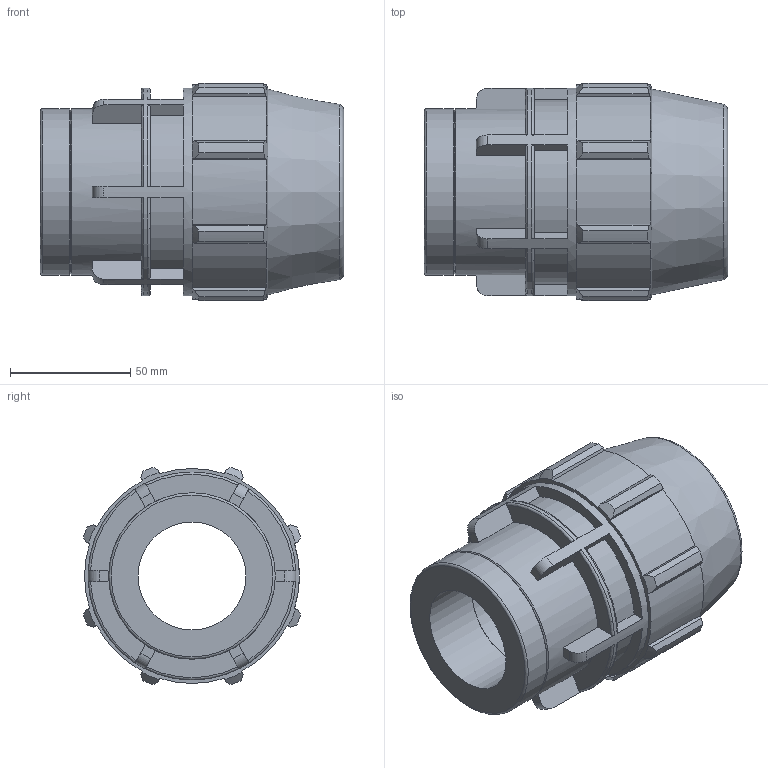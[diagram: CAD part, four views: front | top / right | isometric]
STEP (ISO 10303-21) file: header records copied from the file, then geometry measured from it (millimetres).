
FILE_DESCRIPTION(/* description */ ('PLASSON FEMALE ADAPTOR G 1 1/2'''' - 1 1/2''''F'),/* implementation_level */ '2;1');
FILE_NAME(/* name */ 'C:\Dropbox\KIMPROJECTS-Inventor 2019\99-16-3568-Processing Inch\ASTM Compression 2021\0703M0T\0703M0T15015.ipt.stp',/* time_stamp */ '2021-08-26T12:31:08+03:00',/* author */ ('KIM'),/* organization */ (''),/* preprocessor_version */ 'ST-DEVELOPER v17.2',/* originating_system */ 'Autodesk Inventor 2019',/* authorisation */ '');
FILE_SCHEMA (('AUTOMOTIVE_DESIGN { 1 0 10303 214 3 1 1 }'));
Length unit declared in the file: inch
Products named in the file (1): 0703M0T15015
Bounding box: 125.98 x 90.34 x 90.34 mm (x, y, z)
Volume: 399756.5 mm3; surface area: 64333.2 mm2
Topology: 1 solids, 1 shells, 148 faces, 420 edges, 284 vertices
Faces by surface type: plane 86, cylinder 28, torus 20, cone 14
Full cylindrical faces by diameter (mm): 44.845 x1, 45.695 x1, 48.1 x1, 69.129 x2, 86.411 x1
Entity records: 5404 total; most frequent: CARTESIAN_POINT 1337, ORIENTED_EDGE 840, DIRECTION 798, EDGE_CURVE 420, AXIS2_PLACEMENT_3D 297, VERTEX_POINT 284, LINE 204, VECTOR 204
